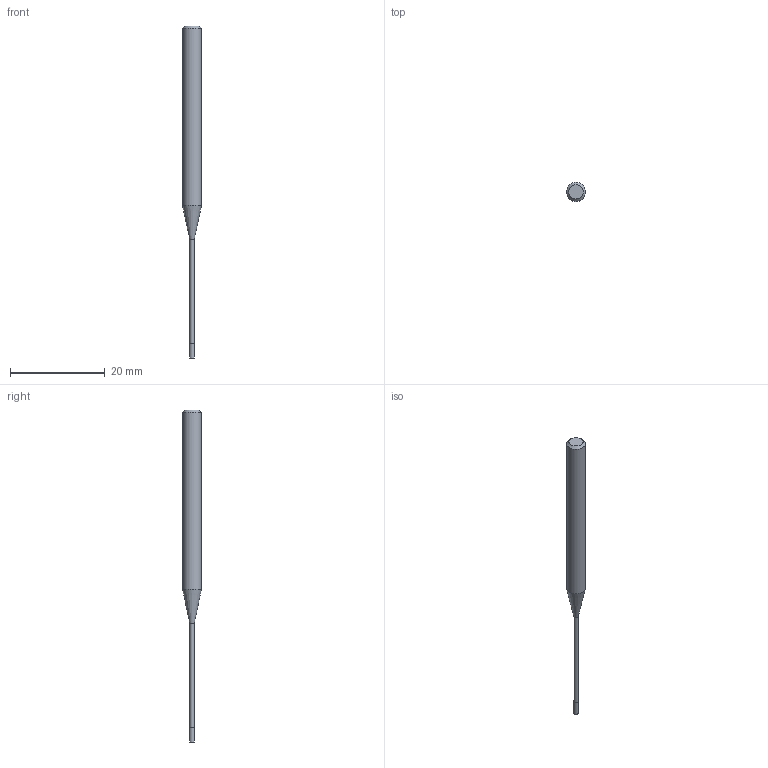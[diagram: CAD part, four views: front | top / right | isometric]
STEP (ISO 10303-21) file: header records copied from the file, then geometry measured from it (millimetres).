
FILE_DESCRIPTION((''),'2;1');
FILE_NAME('C:\Users\nsx150\Desktop\RSE230_20210427\01-00644-01025 RSE230 D1X3X25.step','2021-05-07T14:53:20',(''),(''),'STEP Write','Mastercam 2021 ... CNC Software, Inc.','');
FILE_SCHEMA(('AUTOMOTIVE_DESIGN'));
Length unit declared in the file: millimetre
Products named in the file (1): None
Bounding box: 4 x 4 x 70 mm (x, y, z)
Volume: 530.7 mm3; surface area: 618.3 mm2
Topology: 2 solids, 2 shells, 9 faces, 12 edges, 7 vertices
Faces by surface type: plane 4, cylinder 3, cone 2
Full cylindrical faces by diameter (mm): 0.95 x1, 1 x1, 4 x1
Entity records: 211 total; most frequent: DIRECTION 36, CARTESIAN_POINT 25, AXIS2_PLACEMENT_3D 18, ORIENTED_EDGE 14, EDGE_LOOP 14, STYLED_ITEM 12, ADVANCED_FACE 9, FACE_BOUND 8
